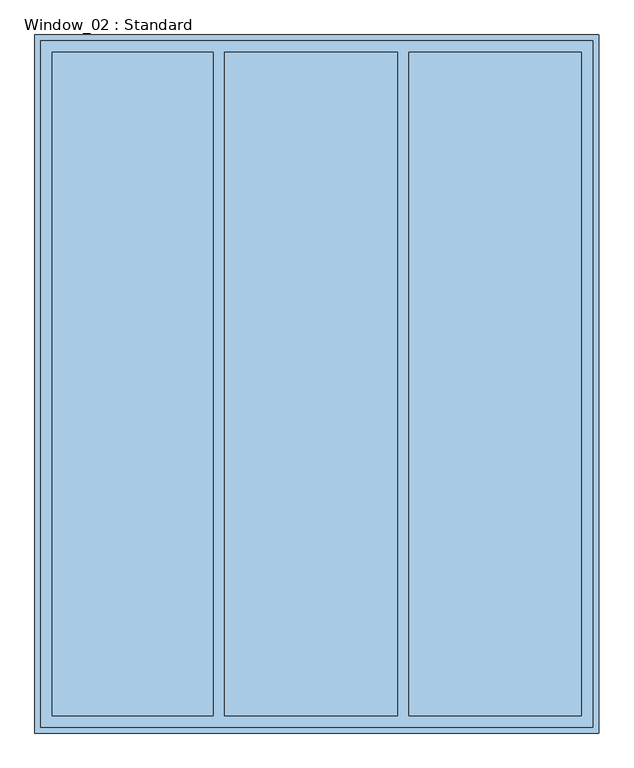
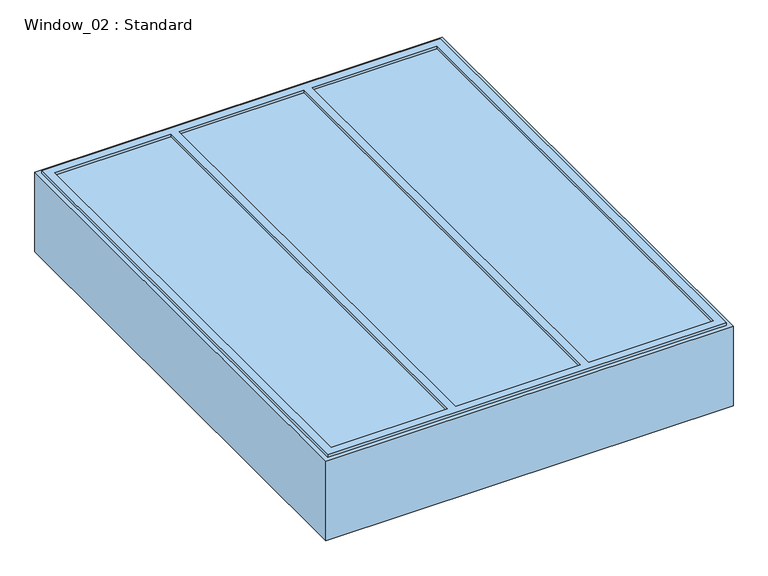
"""IFC4 building model written with IfcOpenShell, lengths in millimetres: window geometry, Window_02 : Standard."""

from ifc_helpers import new_model, si_unit, frame, origin, origin_with_axes, place, context, project, spatial, polyline, outline, extrude, source, transform, mapped, element, save


def window_02_standard_9c25f07f(model_context):
    return source(origin(), model_context, "Body", "SweptSolid", [
        extrude(outline(polyline([(-950.0, -1180.0), (-950.0, 1180.0), (950.0, 1180.0), (950.0, -1180.0), (-950.0, -1180.0)]), holes=[polyline([(-910.0, 1140.0), (-910.0, -1140.0), (-356.6666667, -1140.0), (-356.6666667, 1140.0), (-910.0, 1140.0)]), polyline([(276.6666667, 1140.0), (-316.6666667, 1140.0), (-316.6666667, -1140.0), (276.6666667, -1140.0), (276.6666667, 1140.0)]), polyline([(316.6666667, -1140.0), (910.0, -1140.0), (910.0, 1140.0), (316.6666667, 1140.0), (316.6666667, -1140.0)])]), frame((0.0, 0.0, 395.094128), z_axis=(0.0, 0.0, 1.0), x_axis=(1.0, 0.0, 0.0)), (0.0, 0.0, 1.0), 17.0543259),
        extrude(outline(polyline([(-910.0, 1140.0), (910.0, 1140.0), (910.0, -1140.0), (-910.0, -1140.0), (-910.0, 1140.0)])), frame((0.0, 0.0, 395.094128), z_axis=(0.0, 0.0, 1.0), x_axis=(1.0, 0.0, 0.0)), (0.0, 0.0, 1.0), 4.905872),
        extrude(outline(polyline([(950.0, 1180.0), (950.0, -1180.0), (-950.0, -1180.0), (-950.0, 1180.0), (950.0, 1180.0)]), holes=[polyline([(-910.0, 1140.0), (-910.0, -1140.0), (910.0, -1140.0), (910.0, 1140.0), (-910.0, 1140.0)])]), frame((0.0, 0.0, 330.0), z_axis=(0.0, 0.0, 1.0), x_axis=(1.0, 0.0, 0.0)), (0.0, 0.0, 1.0), 70.0),
        extrude(outline(polyline([(970.0, 1200.0), (970.0, -1200.0), (-970.0, -1200.0), (-970.0, 1200.0), (970.0, 1200.0)]), holes=[polyline([(950.0, 1180.0), (-950.0, 1180.0), (-950.0, -1180.0), (950.0, -1180.0), (950.0, 1180.0)])]), origin_with_axes(), (0.0, 0.0, 1.0), 400.0),
    ])


if __name__ == "__main__":
    model = new_model("IFC4")
    model_context = context("Model", 3, world=origin())
    ifc_project = project(units=[si_unit("LENGTHUNIT", "METRE", prefix="MILLI")], contexts=[model_context])
    site = spatial("IfcSite", under=ifc_project)
    building = spatial("IfcBuilding", under=site)
    placement = place(None, origin())
    window_02_standard_shape = window_02_standard_9c25f07f(model_context)
    element("IfcWindow", 1, ObjectType="Window_02 : Standard", at=placement, inside=building, context=model_context, shape_type="MappedRepresentation", body=[
        mapped(window_02_standard_shape, transform((0.0, 0.0, 0.0), x_axis=(1.0, 0.0, 0.0), y_axis=(0.0, 1.0, 0.0), z_axis=(0.0, 0.0, 1.0))),
    ])
    save(model, "model.ifc")
